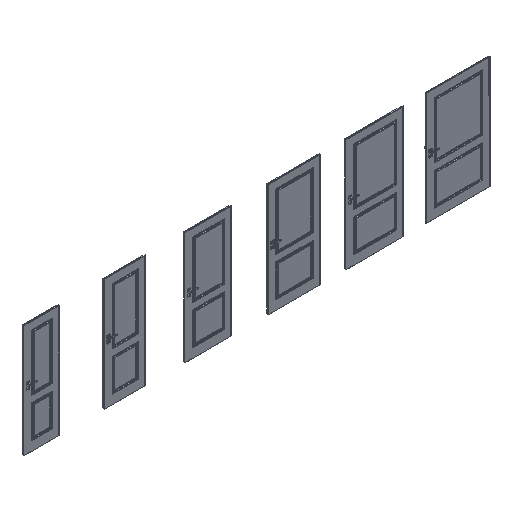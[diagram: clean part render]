
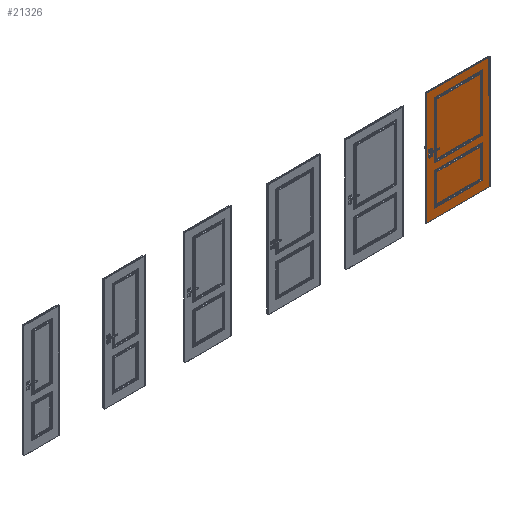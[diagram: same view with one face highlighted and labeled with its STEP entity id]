
A CAD part, isometric view. The second image highlights one B-rep face of the part: STEP entity #21326.
In plain terms, the highlighted planar face has unit normal (0, -1, 0).
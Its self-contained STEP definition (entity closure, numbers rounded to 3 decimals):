
#14108=FACE_OUTER_BOUND('',#33008,.T.);
#21326=ADVANCED_FACE('',(#14108),#28442,.F.);
#28442=PLANE('',#131891);
#33008=EDGE_LOOP('',(#41428,#41429,#41430,#41431));
#41428=ORIENTED_EDGE('',*,*,#91802,.T.);
#41429=ORIENTED_EDGE('',*,*,#91803,.T.);
#41430=ORIENTED_EDGE('',*,*,#91804,.F.);
#41431=ORIENTED_EDGE('',*,*,#91800,.F.);
#79016=VERTEX_POINT('',#159581);
#79017=VERTEX_POINT('',#159583);
#79018=VERTEX_POINT('',#159587);
#79019=VERTEX_POINT('',#159589);
#91800=EDGE_CURVE('',#79016,#79017,#110814,.T.);
#91802=EDGE_CURVE('',#79016,#79018,#110816,.T.);
#91803=EDGE_CURVE('',#79018,#79019,#110817,.T.);
#91804=EDGE_CURVE('',#79017,#79019,#110818,.T.);
#110814=LINE('',#159582,#121348);
#110816=LINE('',#159586,#121350);
#110817=LINE('',#159588,#121351);
#110818=LINE('',#159590,#121352);
#121348=VECTOR('',#137459,1.);
#121350=VECTOR('',#137463,1.);
#121351=VECTOR('',#137464,1.);
#121352=VECTOR('',#137465,1.);
#131891=AXIS2_PLACEMENT_3D('',#159591,#137466,#137467);
#137459=DIRECTION('',(1.,0.,0.));
#137463=DIRECTION('',(0.,0.,-1.));
#137464=DIRECTION('',(1.,0.,0.));
#137465=DIRECTION('',(0.,0.,-1.));
#137466=DIRECTION('',(0.,1.,0.));
#137467=DIRECTION('',(-1.,0.,0.));
#159581=CARTESIAN_POINT('',(6928.,-39.3,2030.));
#159582=CARTESIAN_POINT('',(7178.,-39.3,2030.));
#159583=CARTESIAN_POINT('',(8072.,-39.3,2030.));
#159586=CARTESIAN_POINT('',(6928.,-39.3,2030.));
#159587=CARTESIAN_POINT('',(6928.,-39.3,2.));
#159588=CARTESIAN_POINT('',(7178.,-39.3,2.));
#159589=CARTESIAN_POINT('',(8072.,-39.3,2.));
#159590=CARTESIAN_POINT('',(8072.,-39.3,2030.));
#159591=CARTESIAN_POINT('',(7178.,-39.3,2030.));
